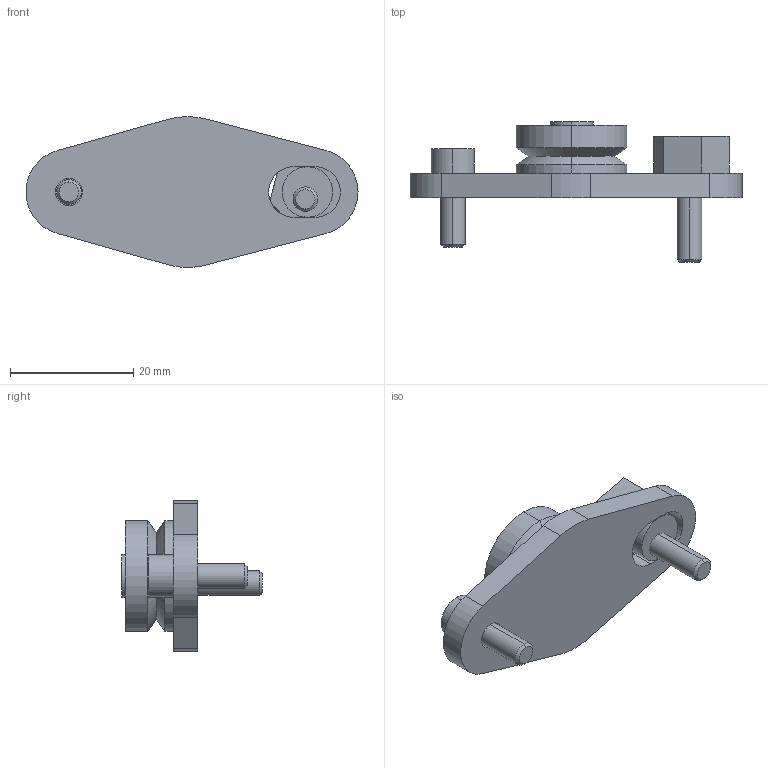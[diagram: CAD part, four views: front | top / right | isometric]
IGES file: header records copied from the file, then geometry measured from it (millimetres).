
Start section: 3D InterOp IGES (Version 21 0 1), Spatial Corp. Copyright (c) 1999-2007.
Global section: file name: RBHJ18ENS.igs; native system: Spatial Corp.; preprocessor: 3D InterOp GENERIC/IGES 3.0; author: Noname; organization: Noname; date: 20220627.165121; units: millimetre
Bounding box: 53.97 x 22.9 x 24.5 mm (x, y, z)
Surface area: 3893 mm2 (no closed solid volume)
Topology: 0 solids, 0 shells, 78 faces, 378 edges, 378 vertices
Faces by surface type: extrusion 45, revolution 33
